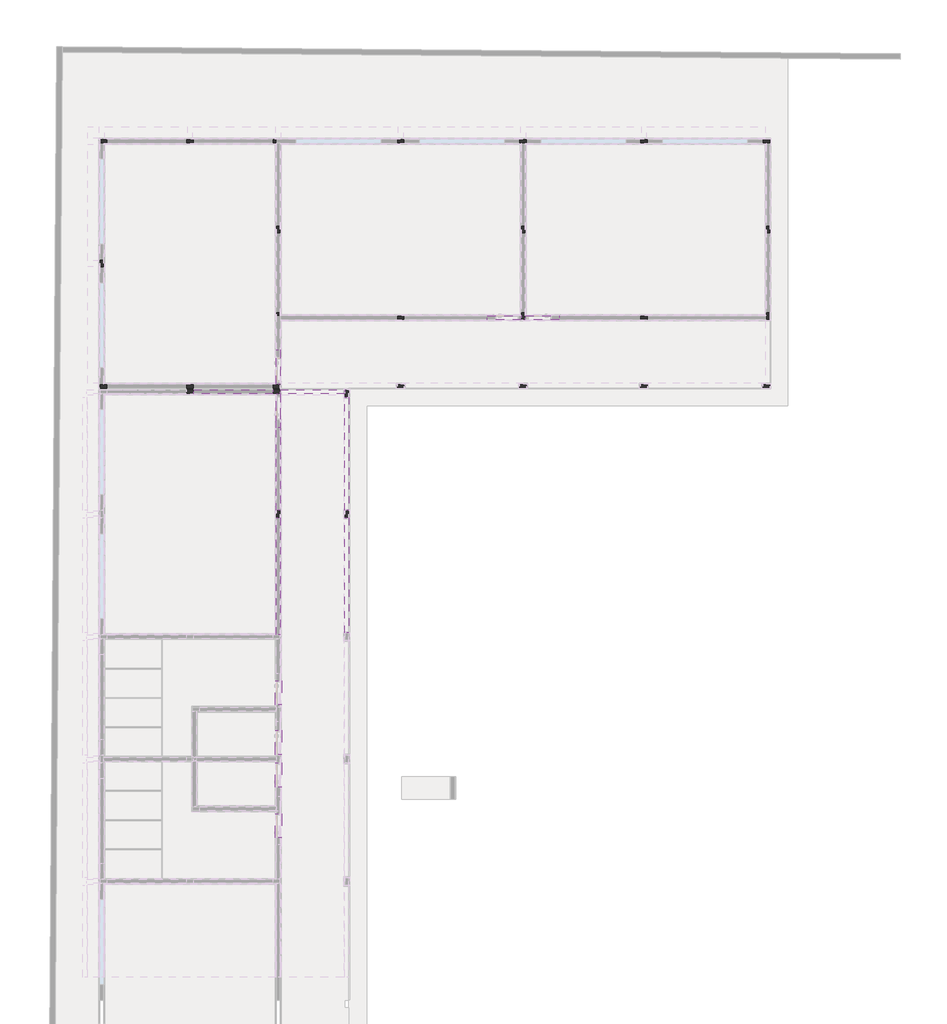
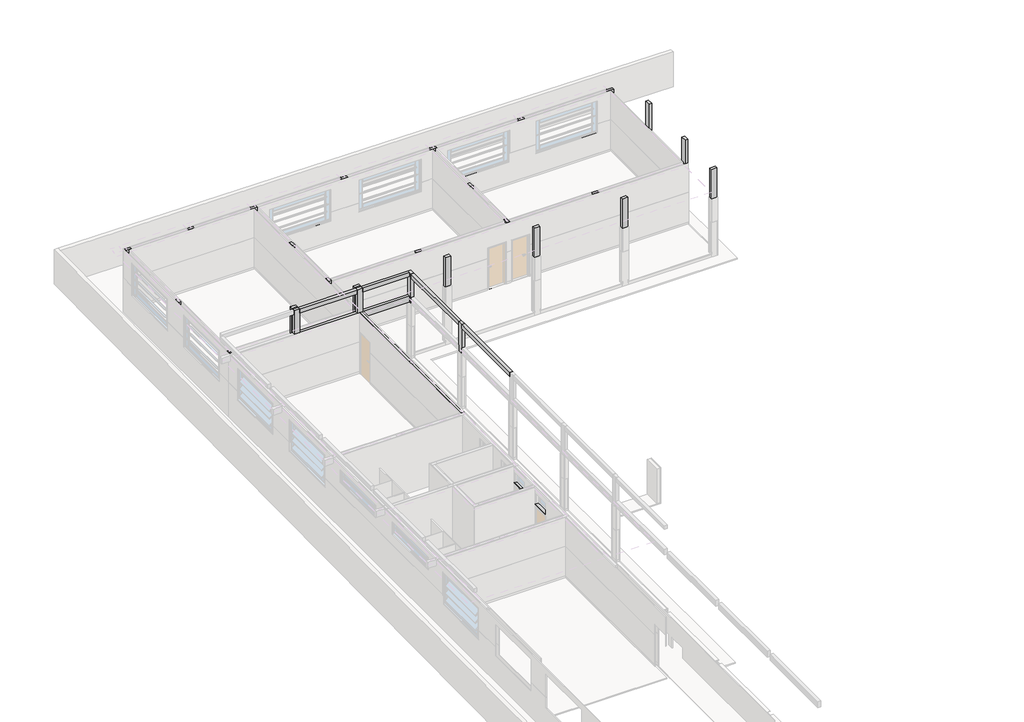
# One storey, part 10 of 11: 50 beams, 28 columns, 4 furniture elements.
"""IFC4 building model written with IfcOpenShell, lengths in millimetres."""

from ifc_helpers import new_model, si_unit, frame, origin, place, context, project, spatial, polyline, outline, extrude, faceted_brep, transform, mapped, element, save
from components import beam_10x14x120_9fcbaa63, pedra_peitoril_tipo_1_7c079c32

model = new_model("IFC4")

# Units and contexts
model_context = context("Model", 3, world=origin())
ifc_project = project(units=[si_unit("LENGTHUNIT", "METRE", prefix="MILLI")], contexts=[model_context])

# Site, building, storey
site = spatial("IfcSite", under=ifc_project)
building = spatial("IfcBuilding", under=site)
storey = spatial("IfcBuildingStorey", under=building, Name="NÍVEL 1", Elevation=43.4413576)

# Beams
placement = place(None, origin())
beam_10x14x120_shape = beam_10x14x120_9fcbaa63(model_context)
element("IfcBeam", 1, ObjectType="Verga-vedacao : 10x14x120", at=placement, inside=storey, context=model_context, shape_type="MappedRepresentation", body=[
    mapped(beam_10x14x120_shape, transform((9272.3574069, 7202.0719642, 2208.4413576), x_axis=(0.0, 1.0, 0.0), y_axis=(0.0, 0.0, 1.0), z_axis=(1.0, 0.0, 0.0))),
])
element("IfcBeam", 2, ObjectType="Verga-vedacao : 10x14x120", at=placement, inside=storey, context=model_context, shape_type="MappedRepresentation", body=[
    mapped(beam_10x14x120_shape, transform((9272.3574069, 8742.0719642, 2208.4413576), x_axis=(0.0, 1.0, 0.0), y_axis=(0.0, 0.0, 1.0), z_axis=(1.0, 0.0, 0.0))),
])
element("IfcBeam", 3, ObjectType="Verga-vedacao : 10x14x120", at=placement, inside=storey, context=model_context, shape_type="MappedRepresentation", body=[
    mapped(beam_10x14x120_shape, transform((17132.3574069, 10402.0719642, 2208.4413576), x_axis=(1.0, 0.0, 0.0), y_axis=(0.0, 0.0, 1.0), z_axis=(0.0, -1.0, 0.0))),
])
element("IfcBeam", 4, ObjectType="Verga-vedacao : 10x14x120", at=placement, inside=storey, context=model_context, shape_type="MappedRepresentation", body=[
    mapped(beam_10x14x120_shape, transform((18472.3574069, 10402.0719642, 2208.4413576), x_axis=(1.0, 0.0, 0.0), y_axis=(0.0, 0.0, 1.0), z_axis=(0.0, -1.0, 0.0))),
])
element("IfcBeam", 5, ObjectType="Viga Retangular de Concreto : VIGA BALDRAME 14X30-25MPA-CA50", at=placement, inside=storey, context=model_context, shape_type="SweptSolid", body=[
    extrude(outline(polyline([(13372.3574069, 16742.0719642), (13372.3574069, 16602.0719642), (9272.3574069, 16602.0719642), (9272.3574069, 16742.0719642), (13372.3574069, 16742.0719642)])), frame((0.0, 0.0, -256.5586424), z_axis=(0.0, 0.0, 1.0), x_axis=(1.0, 0.0, 0.0)), (0.0, 0.0, 1.0), 300.0),
])
element("IfcBeam", 6, ObjectType="Viga Retangular de Concreto : VIGA BALDRAME 14X30-25MPA-CA50", at=placement, inside=storey, context=model_context, shape_type="SweptSolid", body=[
    extrude(outline(polyline([(17672.3574069, 16742.0719642), (17672.3574069, 16602.0719642), (13632.3574069, 16602.0719642), (13632.3574069, 16742.0719642), (17672.3574069, 16742.0719642)])), frame((0.0, 0.0, -256.5586424), z_axis=(0.0, 0.0, 1.0), x_axis=(1.0, 0.0, 0.0)), (0.0, 0.0, 1.0), 300.0),
])
element("IfcBeam", 7, ObjectType="Viga Retangular de Concreto : VIGA BALDRAME 14X30-25MPA-CA50", at=placement, inside=storey, context=model_context, shape_type="SweptSolid", body=[
    extrude(outline(polyline([(9272.3574069, 10402.0719642), (9272.3574069, 10542.0719642), (13372.3574069, 10542.0719642), (13372.3574069, 10402.0719642), (9272.3574069, 10402.0719642)])), frame((0.0, 0.0, -256.5586424), z_axis=(0.0, 0.0, 1.0), x_axis=(1.0, 0.0, 0.0)), (0.0, 0.0, 1.0), 300.0),
])
element("IfcBeam", 8, ObjectType="Viga Retangular de Concreto : VIGA BALDRAME 14X30-25MPA-CA50", at=placement, inside=storey, context=model_context, shape_type="SweptSolid", body=[
    extrude(outline(polyline([(17732.3574069, 10542.0719642), (17732.3574069, 10402.0719642), (13632.3574069, 10402.0719642), (13632.3574069, 10542.0719642), (17732.3574069, 10542.0719642)])), frame((0.0, 0.0, -256.5586424), z_axis=(0.0, 0.0, 1.0), x_axis=(1.0, 0.0, 0.0)), (0.0, 0.0, 1.0), 300.0),
])
element("IfcBeam", 9, ObjectType="Viga Retangular de Concreto : VIGA BALDRAME 14X30-25MPA-CA50", at=placement, inside=storey, context=model_context, shape_type="SweptSolid", body=[
    extrude(outline(polyline([(17732.3574069, 13442.0719642), (17872.3574069, 13442.0719642), (17872.3574069, 10662.0719642), (17732.3574069, 10662.0719642), (17732.3574069, 13442.0719642)])), frame((0.0, 0.0, -256.5586424), z_axis=(0.0, 0.0, 1.0), x_axis=(1.0, 0.0, 0.0)), (0.0, 0.0, 1.0), 300.0),
])
element("IfcBeam", 10, ObjectType="Viga Retangular de Concreto : VIGA BALDRAME 14X30-25MPA-CA50", at=placement, inside=storey, context=model_context, shape_type="SweptSolid", body=[
    extrude(outline(polyline([(17732.3574069, 16602.0719642), (17872.3574069, 16602.0719642), (17872.3574069, 13702.0719642), (17732.3574069, 13702.0719642), (17732.3574069, 16602.0719642)])), frame((0.0, 0.0, -256.5586424), z_axis=(0.0, 0.0, 1.0), x_axis=(1.0, 0.0, 0.0)), (0.0, 0.0, 1.0), 300.0),
])
element("IfcBeam", 11, ObjectType="Viga Retangular de Concreto : VIGA BALDRAME 14X30-25MPA-CA50", at=placement, inside=storey, context=model_context, shape_type="SweptSolid", body=[
    extrude(outline(polyline([(17872.3574069, 10402.0719642), (17872.3574069, 10542.0719642), (21912.3574069, 10542.0719642), (21912.3574069, 10402.0719642), (17872.3574069, 10402.0719642)])), frame((0.0, 0.0, -256.5586424), z_axis=(0.0, 0.0, 1.0), x_axis=(1.0, 0.0, 0.0)), (0.0, 0.0, 1.0), 300.0),
])
element("IfcBeam", 12, ObjectType="Viga Retangular de Concreto : VIGA BALDRAME 14X30-25MPA-CA50", at=placement, inside=storey, context=model_context, shape_type="SweptSolid", body=[
    extrude(outline(polyline([(26332.3574069, 10542.0719642), (26332.3574069, 10402.0719642), (22172.3574069, 10402.0719642), (22172.3574069, 10542.0719642), (26332.3574069, 10542.0719642)])), frame((0.0, 0.0, -256.5586424), z_axis=(0.0, 0.0, 1.0), x_axis=(1.0, 0.0, 0.0)), (0.0, 0.0, 1.0), 300.0),
])
element("IfcBeam", 13, ObjectType="Viga Retangular de Concreto : VIGA BALDRAME 14X30-25MPA-CA50", at=placement, inside=storey, context=model_context, shape_type="SweptSolid", body=[
    extrude(outline(polyline([(26332.3574069, 13442.0719642), (26472.3574069, 13442.0719642), (26472.3574069, 10662.0719642), (26332.3574069, 10662.0719642), (26332.3574069, 13442.0719642)])), frame((0.0, 0.0, -256.5586424), z_axis=(0.0, 0.0, 1.0), x_axis=(1.0, 0.0, 0.0)), (0.0, 0.0, 1.0), 300.0),
])
element("IfcBeam", 14, ObjectType="Viga Retangular de Concreto : VIGA BALDRAME 14X30-25MPA-CA50", at=placement, inside=storey, context=model_context, shape_type="SweptSolid", body=[
    extrude(outline(polyline([(26332.3574069, 16602.0719642), (26472.3574069, 16602.0719642), (26472.3574069, 13702.0719642), (26332.3574069, 13702.0719642), (26332.3574069, 16602.0719642)])), frame((0.0, 0.0, -256.5586424), z_axis=(0.0, 0.0, 1.0), x_axis=(1.0, 0.0, 0.0)), (0.0, 0.0, 1.0), 300.0),
])
element("IfcBeam", 15, ObjectType="Viga Retangular de Concreto : VIGA BALDRAME 14X30-25MPA-CA50", at=placement, inside=storey, context=model_context, shape_type="SweptSolid", body=[
    extrude(outline(polyline([(21912.3574069, 16742.0719642), (21912.3574069, 16602.0719642), (17932.3574069, 16602.0719642), (17932.3574069, 16742.0719642), (21912.3574069, 16742.0719642)])), frame((0.0, 0.0, -256.5586424), z_axis=(0.0, 0.0, 1.0), x_axis=(1.0, 0.0, 0.0)), (0.0, 0.0, 1.0), 300.0),
])
element("IfcBeam", 16, ObjectType="Viga Retangular de Concreto : VIGA BALDRAME 14X30-25MPA-CA50", at=placement, inside=storey, context=model_context, shape_type="SweptSolid", body=[
    extrude(outline(polyline([(26212.3574069, 16742.0719642), (26212.3574069, 16602.0719642), (22172.3574069, 16602.0719642), (22172.3574069, 16742.0719642), (26212.3574069, 16742.0719642)])), frame((0.0, 0.0, -256.5586424), z_axis=(0.0, 0.0, 1.0), x_axis=(1.0, 0.0, 0.0)), (0.0, 0.0, 1.0), 300.0),
])
element("IfcBeam", 17, ObjectType="Viga Retangular de Concreto : VIGA BALDRAME 14X30-25MPA-CA50", at=placement, inside=storey, context=model_context, shape_type="SweptSolid", body=[
    extrude(outline(polyline([(9272.3574069, 8142.0719642), (9132.3574069, 8142.0719642), (9132.3574069, 10402.0719642), (9272.3574069, 10402.0719642), (9272.3574069, 8142.0719642)])), frame((0.0, 0.0, -256.5586424), z_axis=(0.0, 0.0, 1.0), x_axis=(1.0, 0.0, 0.0)), (0.0, 0.0, 1.0), 300.0),
])
element("IfcBeam", 18, ObjectType="Viga Retangular de Concreto : VIGA BALDRAME 14X30-25MPA-CA50", at=placement, inside=storey, context=model_context, shape_type="SweptSolid", body=[
    extrude(outline(polyline([(13372.3574069, 8142.0719642), (13372.3574069, 8002.0719642), (9272.3574069, 8002.0719642), (9272.3574069, 8142.0719642), (13372.3574069, 8142.0719642)])), frame((0.0, 0.0, -276.5586424), z_axis=(0.0, 0.0, 1.0), x_axis=(1.0, 0.0, 0.0)), (0.0, 0.0, 1.0), 300.0),
])
element("IfcBeam", 19, ObjectType="Viga Retangular de Concreto : VIGA BALDRAME 14X30-25MPA-CA50", at=placement, inside=storey, context=model_context, shape_type="SweptSolid", body=[
    extrude(outline(polyline([(17672.3574069, 8142.0719642), (17672.3574069, 8002.0719642), (13632.3574069, 8002.0719642), (13632.3574069, 8142.0719642), (17672.3574069, 8142.0719642)])), frame((0.0, 0.0, -276.5586424), z_axis=(0.0, 0.0, 1.0), x_axis=(1.0, 0.0, 0.0)), (0.0, 0.0, 1.0), 300.0),
])
element("IfcBeam", 20, ObjectType="Viga Retangular de Concreto : VIGA BALDRAME 14X30-25MPA-CA50", at=placement, inside=storey, context=model_context, shape_type="SweptSolid", body=[
    extrude(outline(polyline([(21912.3574069, 8142.0719642), (21912.3574069, 8002.0719642), (17932.3574069, 8002.0719642), (17932.3574069, 8142.0719642), (21912.3574069, 8142.0719642)])), frame((0.0, 0.0, -276.5586424), z_axis=(0.0, 0.0, 1.0), x_axis=(1.0, 0.0, 0.0)), (0.0, 0.0, 1.0), 300.0),
])
element("IfcBeam", 21, ObjectType="Viga Retangular de Concreto : VIGA BALDRAME 14X30-25MPA-CA50", at=placement, inside=storey, context=model_context, shape_type="SweptSolid", body=[
    extrude(outline(polyline([(26212.3574069, 8142.0719642), (26212.3574069, 8002.0719642), (22172.3574069, 8002.0719642), (22172.3574069, 8142.0719642), (26212.3574069, 8142.0719642)])), frame((0.0, 0.0, -276.5586424), z_axis=(0.0, 0.0, 1.0), x_axis=(1.0, 0.0, 0.0)), (0.0, 0.0, 1.0), 300.0),
])
element("IfcBeam", 22, ObjectType="Viga Retangular de Concreto : VIGA BALDRAME 14X30-25MPA-CA50", at=placement, inside=storey, context=model_context, shape_type="SweptSolid", body=[
    extrude(outline(polyline([(26472.3574069, 8142.0719642), (26332.3574069, 8142.0719642), (26332.3574069, 10402.0719642), (26472.3574069, 10402.0719642), (26472.3574069, 8142.0719642)])), frame((0.0, 0.0, -276.5586424), z_axis=(0.0, 0.0, 1.0), x_axis=(1.0, 0.0, 0.0)), (0.0, 0.0, 1.0), 300.0),
])
element("IfcBeam", 23, ObjectType="Viga Retangular de Concreto : VIGA BALDRAME 14X30-25MPA-CA50", at=placement, inside=storey, context=model_context, shape_type="SweptSolid", body=[
    extrude(outline(polyline([(6232.3574069, 8002.0719642), (6232.3574069, 8142.0719642), (9012.3574069, 8142.0719642), (9012.3574069, 8002.0719642), (6232.3574069, 8002.0719642)])), frame((0.0, 0.0, -256.5586424), z_axis=(0.0, 0.0, 1.0), x_axis=(1.0, 0.0, 0.0)), (0.0, 0.0, 1.0), 300.0),
])
element("IfcBeam", 24, ObjectType="Viga Retangular de Concreto : VIGA BALDRAME 14X30-25MPA-CA50", at=placement, inside=storey, context=model_context, shape_type="SweptSolid", body=[
    extrude(outline(polyline([(5972.3574069, 8142.0719642), (5972.3574069, 8002.0719642), (3192.3574069, 8002.0719642), (3192.3574069, 8142.0719642), (5972.3574069, 8142.0719642)])), frame((0.0, 0.0, -256.5586424), z_axis=(0.0, 0.0, 1.0), x_axis=(1.0, 0.0, 0.0)), (0.0, 0.0, 1.0), 300.0),
])
element("IfcBeam", 25, ObjectType="Viga Retangular de Concreto : VIGA BALDRAME 14X30-25MPA-CA50", at=placement, inside=storey, context=model_context, shape_type="SweptSolid", body=[
    extrude(outline(polyline([(2932.3574069, 12242.0719642), (3072.3574069, 12242.0719642), (3072.3574069, 8142.0719642), (2932.3574069, 8142.0719642), (2932.3574069, 12242.0719642)])), frame((0.0, 0.0, -256.5586424), z_axis=(0.0, 0.0, 1.0), x_axis=(1.0, 0.0, 0.0)), (0.0, 0.0, 1.0), 300.0),
])
element("IfcBeam", 26, ObjectType="Viga Retangular de Concreto : VIGA BALDRAME 14X30-25MPA-CA50", at=placement, inside=storey, context=model_context, shape_type="SweptSolid", body=[
    extrude(outline(polyline([(3072.3574069, 12502.0719642), (2932.3574069, 12502.0719642), (2932.3574069, 16602.0719642), (3072.3574069, 16602.0719642), (3072.3574069, 12502.0719642)])), frame((0.0, 0.0, -256.5586424), z_axis=(0.0, 0.0, 1.0), x_axis=(1.0, 0.0, 0.0)), (0.0, 0.0, 1.0), 300.0),
])
element("IfcBeam", 27, ObjectType="Viga Retangular de Concreto : VIGA BALDRAME 14X30-25MPA-CA50", at=placement, inside=storey, context=model_context, shape_type="SweptSolid", body=[
    extrude(outline(polyline([(5972.3574069, 16742.0719642), (5972.3574069, 16602.0719642), (3192.3574069, 16602.0719642), (3192.3574069, 16742.0719642), (5972.3574069, 16742.0719642)])), frame((0.0, 0.0, -256.5586424), z_axis=(0.0, 0.0, 1.0), x_axis=(1.0, 0.0, 0.0)), (0.0, 0.0, 1.0), 300.0),
])
element("IfcBeam", 28, ObjectType="Viga Retangular de Concreto : VIGA BALDRAME 14X30-25MPA-CA50", at=placement, inside=storey, context=model_context, shape_type="SweptSolid", body=[
    extrude(outline(polyline([(9012.3574069, 16742.0719642), (9012.3574069, 16602.0719642), (6232.3574069, 16602.0719642), (6232.3574069, 16742.0719642), (9012.3574069, 16742.0719642)])), frame((0.0, 0.0, -256.5586424), z_axis=(0.0, 0.0, 1.0), x_axis=(1.0, 0.0, 0.0)), (0.0, 0.0, 1.0), 300.0),
])
element("IfcBeam", 29, ObjectType="Viga Retangular de Concreto : VIGA BALDRAME 14X30-25MPA-CA50", at=placement, inside=storey, context=model_context, shape_type="SweptSolid", body=[
    extrude(outline(polyline([(9132.3574069, 13442.0719642), (9272.3574069, 13442.0719642), (9272.3574069, 10662.0719642), (9132.3574069, 10662.0719642), (9132.3574069, 13442.0719642)])), frame((0.0, 0.0, -256.5586424), z_axis=(0.0, 0.0, 1.0), x_axis=(1.0, 0.0, 0.0)), (0.0, 0.0, 1.0), 300.0),
])
element("IfcBeam", 30, ObjectType="Viga Retangular de Concreto : VIGA BALDRAME 14X30-25MPA-CA50", at=placement, inside=storey, context=model_context, shape_type="SweptSolid", body=[
    extrude(outline(polyline([(9132.3574069, 16602.0719642), (9272.3574069, 16602.0719642), (9272.3574069, 13702.0719642), (9132.3574069, 13702.0719642), (9132.3574069, 16602.0719642)])), frame((0.0, 0.0, -256.5586424), z_axis=(0.0, 0.0, 1.0), x_axis=(1.0, 0.0, 0.0)), (0.0, 0.0, 1.0), 300.0),
])
element("IfcBeam", 31, ObjectType="Viga Retangular de Concreto : VIGA BALDRAME 14X30-25MPA-CA50", at=placement, inside=storey, context=model_context, shape_type="SweptSolid", body=[
    extrude(outline(polyline([(9012.3574069, 7942.0719642), (9012.3574069, 7802.0719642), (6232.3574069, 7802.0719642), (6232.3574069, 7942.0719642), (9012.3574069, 7942.0719642)])), frame((0.0, 0.0, -256.5586424), z_axis=(0.0, 0.0, 1.0), x_axis=(1.0, 0.0, 0.0)), (0.0, 0.0, 1.0), 300.0),
])
element("IfcBeam", 32, ObjectType="Viga Retangular de Concreto : VIGA BALDRAME 14X30-25MPA-CA50", at=placement, inside=storey, context=model_context, shape_type="SweptSolid", body=[
    extrude(outline(polyline([(11532.3574069, 7942.0719642), (11532.3574069, 7802.0719642), (9272.3574069, 7802.0719642), (9272.3574069, 7942.0719642), (11532.3574069, 7942.0719642)])), frame((0.0, 0.0, -276.5586424), z_axis=(0.0, 0.0, 1.0), x_axis=(1.0, 0.0, 0.0)), (0.0, 0.0, 1.0), 300.0),
])
element("IfcBeam", 33, ObjectType="Viga Retangular de Concreto : VIGA BALDRAME 14X30-25MPA-CA50", at=placement, inside=storey, context=model_context, shape_type="SweptSolid", body=[
    extrude(outline(polyline([(11672.3574069, 3702.0719642), (11532.3574069, 3702.0719642), (11532.3574069, 7682.0719642), (11672.3574069, 7682.0719642), (11672.3574069, 3702.0719642)])), frame((0.0, 0.0, -276.5586424), z_axis=(0.0, 0.0, 1.0), x_axis=(1.0, 0.0, 0.0)), (0.0, 0.0, 1.0), 300.0),
])
element("IfcBeam", 34, ObjectType="Viga Retangular de Concreto : VIGA BALDRAME 14X30-25MPA-CA50", at=placement, inside=storey, context=model_context, shape_type="SweptSolid", body=[
    extrude(outline(polyline([(11532.3574069, 3442.0719642), (11672.3574069, 3442.0719642), (11672.3574069, -597.9280358), (11532.3574069, -597.9280358), (11532.3574069, 3442.0719642)])), frame((0.0, 0.0, -276.5586424), z_axis=(0.0, 0.0, 1.0), x_axis=(1.0, 0.0, 0.0)), (0.0, 0.0, 1.0), 300.0),
])
element("IfcBeam", 35, ObjectType="Viga Retangular de Concreto : VIGA BALDRAME 14X30-25MPA-CA50", at=placement, inside=storey, context=model_context, shape_type="SweptSolid", body=[
    extrude(outline(polyline([(9132.3574069, 3442.0719642), (9272.3574069, 3442.0719642), (9272.3574069, -657.9280358), (9132.3574069, -657.9280358), (9132.3574069, 3442.0719642)])), frame((0.0, 0.0, -256.5586424), z_axis=(0.0, 0.0, 1.0), x_axis=(1.0, 0.0, 0.0)), (0.0, 0.0, 1.0), 300.0),
])
element("IfcBeam", 36, ObjectType="Viga Retangular de Concreto : VIGA BALDRAME 14X30-25MPA-CA50", at=placement, inside=storey, context=model_context, shape_type="SweptSolid", body=[
    extrude(outline(polyline([(9132.3574069, 7802.0719642), (9272.3574069, 7802.0719642), (9272.3574069, 3702.0719642), (9132.3574069, 3702.0719642), (9132.3574069, 7802.0719642)])), frame((0.0, 0.0, -256.5586424), z_axis=(0.0, 0.0, 1.0), x_axis=(1.0, 0.0, 0.0)), (0.0, 0.0, 1.0), 300.0),
])
element("IfcBeam", 37, ObjectType="Viga Retangular de Concreto : VIGA ESTRUTURAL 14X20-25MPA-CA50", at=placement, inside=storey, context=model_context, shape_type="SweptSolid", body=[
    extrude(outline(polyline([(11532.3574069, 3442.0719642), (11672.3574069, 3442.0719642), (11672.3574069, -597.9280358), (11532.3574069, -597.9280358), (11532.3574069, 3442.0719642)])), frame((0.0, 0.0, 4143.4413576), z_axis=(0.0, 0.0, 1.0), x_axis=(1.0, 0.0, 0.0)), (0.0, 0.0, 1.0), 200.0),
])
element("IfcBeam", 38, ObjectType="Viga Retangular de Concreto : VIGA ESTRUTURAL 14X20-25MPA-CA50", at=placement, inside=storey, context=model_context, shape_type="SweptSolid", body=[
    extrude(outline(polyline([(11672.3574069, 3702.0719642), (11532.3574069, 3702.0719642), (11532.3574069, 7682.0719642), (11672.3574069, 7682.0719642), (11672.3574069, 3702.0719642)])), frame((0.0, 0.0, 4143.4413576), z_axis=(0.0, 0.0, 1.0), x_axis=(1.0, 0.0, 0.0)), (0.0, 0.0, 1.0), 200.0),
])
element("IfcBeam", 39, ObjectType="Viga Retangular de Concreto : VIGA ESTRUTURAL 14X20-25MPA-CA50", at=placement, inside=storey, context=model_context, shape_type="SweptSolid", body=[
    extrude(outline(polyline([(9272.3574069, 7802.0719642), (9272.3574069, 7942.0719642), (11532.3574069, 7942.0719642), (11532.3574069, 7802.0719642), (9272.3574069, 7802.0719642)])), frame((0.0, 0.0, 4143.4413576), z_axis=(0.0, 0.0, 1.0), x_axis=(1.0, 0.0, 0.0)), (0.0, 0.0, 1.0), 200.0),
])
element("IfcBeam", 40, ObjectType="Viga Retangular de Concreto : VIGA ESTRUTURAL 14X20-25MPA-CA50", at=placement, inside=storey, context=model_context, shape_type="SweptSolid", body=[
    extrude(outline(polyline([(6232.3574069, 7802.0719642), (6232.3574069, 7942.0719642), (9012.3574069, 7942.0719642), (9012.3574069, 7802.0719642), (6232.3574069, 7802.0719642)])), frame((0.0, 0.0, 4143.4413576), z_axis=(0.0, 0.0, 1.0), x_axis=(1.0, 0.0, 0.0)), (0.0, 0.0, 1.0), 200.0),
])
element("IfcBeam", 41, ObjectType="Viga Retangular de Concreto : VIGA ESTRUTURAL 14X20-25MPA-CA50", at=placement, inside=storey, context=model_context, shape_type="SweptSolid", body=[
    extrude(outline(polyline([(2932.3574069, 12242.0719642), (3072.3574069, 12242.0719642), (3072.3574069, 8142.0719642), (2932.3574069, 8142.0719642), (2932.3574069, 12242.0719642)])), frame((0.0, 0.0, 1003.4413576), z_axis=(0.0, 0.0, 1.0), x_axis=(1.0, 0.0, 0.0)), (0.0, 0.0, 1.0), 200.0),
])
element("IfcBeam", 42, ObjectType="Viga Retangular de Concreto : VIGA ESTRUTURAL 14X20-25MPA-CA50", at=placement, inside=storey, context=model_context, shape_type="SweptSolid", body=[
    extrude(outline(polyline([(2932.3574069, 16602.0719642), (3072.3574069, 16602.0719642), (3072.3574069, 12502.0719642), (2932.3574069, 12502.0719642), (2932.3574069, 16602.0719642)])), frame((0.0, 0.0, 1003.4413576), z_axis=(0.0, 0.0, 1.0), x_axis=(1.0, 0.0, 0.0)), (0.0, 0.0, 1.0), 200.0),
])
element("IfcBeam", 43, ObjectType="Viga Retangular de Concreto : VIGA ESTRUTURAL 14X20-25MPA-CA50", at=placement, inside=storey, context=model_context, shape_type="SweptSolid", body=[
    extrude(outline(polyline([(13372.3574069, 16742.0719642), (13372.3574069, 16602.0719642), (9272.3574069, 16602.0719642), (9272.3574069, 16742.0719642), (13372.3574069, 16742.0719642)])), frame((0.0, 0.0, 1003.4413576), z_axis=(0.0, 0.0, 1.0), x_axis=(1.0, 0.0, 0.0)), (0.0, 0.0, 1.0), 200.0),
])
element("IfcBeam", 44, ObjectType="Viga Retangular de Concreto : VIGA ESTRUTURAL 14X20-25MPA-CA50", at=placement, inside=storey, context=model_context, shape_type="SweptSolid", body=[
    extrude(outline(polyline([(17672.3574069, 16742.0719642), (17672.3574069, 16602.0719642), (13632.3574069, 16602.0719642), (13632.3574069, 16742.0719642), (17672.3574069, 16742.0719642)])), frame((0.0, 0.0, 1003.4413576), z_axis=(0.0, 0.0, 1.0), x_axis=(1.0, 0.0, 0.0)), (0.0, 0.0, 1.0), 200.0),
])
element("IfcBeam", 45, ObjectType="Viga Retangular de Concreto : VIGA ESTRUTURAL 14X20-25MPA-CA50", at=placement, inside=storey, context=model_context, shape_type="SweptSolid", body=[
    extrude(outline(polyline([(21912.3574069, 16742.0719642), (21912.3574069, 16602.0719642), (17932.3574069, 16602.0719642), (17932.3574069, 16742.0719642), (21912.3574069, 16742.0719642)])), frame((0.0, 0.0, 1003.4413576), z_axis=(0.0, 0.0, 1.0), x_axis=(1.0, 0.0, 0.0)), (0.0, 0.0, 1.0), 200.0),
])
element("IfcBeam", 46, ObjectType="Viga Retangular de Concreto : VIGA ESTRUTURAL 14X20-25MPA-CA50", at=placement, inside=storey, context=model_context, shape_type="SweptSolid", body=[
    extrude(outline(polyline([(26212.3574069, 16742.0719642), (26212.3574069, 16602.0719642), (22172.3574069, 16602.0719642), (22172.3574069, 16742.0719642), (26212.3574069, 16742.0719642)])), frame((0.0, 0.0, 1003.4413576), z_axis=(0.0, 0.0, 1.0), x_axis=(1.0, 0.0, 0.0)), (0.0, 0.0, 1.0), 200.0),
])
element("IfcBeam", 47, ObjectType="Viga Retangular de Concreto : VIGA ESTRUTURAL 14X30-25MPA-CA50", at=placement, inside=storey, context=model_context, shape_type="SweptSolid", body=[
    extrude(outline(polyline([(9012.3574069, 7942.0719642), (9012.3574069, 7802.0719642), (6232.3574069, 7802.0719642), (6232.3574069, 7942.0719642), (9012.3574069, 7942.0719642)])), frame((0.0, 0.0, 2843.4413576), z_axis=(0.0, 0.0, 1.0), x_axis=(1.0, 0.0, 0.0)), (0.0, 0.0, 1.0), 300.0),
])
element("IfcBeam", 48, ObjectType="Viga Retangular de Concreto : VIGA ESTRUTURAL 14X30-25MPA-CA50", at=placement, inside=storey, context=model_context, shape_type="SweptSolid", body=[
    extrude(outline(polyline([(11532.3574069, 7942.0719642), (11532.3574069, 7802.0719642), (9272.3574069, 7802.0719642), (9272.3574069, 7942.0719642), (11532.3574069, 7942.0719642)])), frame((0.0, 0.0, 2843.4413576), z_axis=(0.0, 0.0, 1.0), x_axis=(1.0, 0.0, 0.0)), (0.0, 0.0, 1.0), 300.0),
])
element("IfcBeam", 49, ObjectType="Viga Retangular de Concreto : VIGA ESTRUTURAL 14X30-25MPA-CA50", at=placement, inside=storey, context=model_context, shape_type="SweptSolid", body=[
    extrude(outline(polyline([(9132.3574069, 3442.0719642), (9272.3574069, 3442.0719642), (9272.3574069, -657.9280358), (9132.3574069, -657.9280358), (9132.3574069, 3442.0719642)])), frame((0.0, 0.0, 2843.4413576), z_axis=(0.0, 0.0, 1.0), x_axis=(1.0, 0.0, 0.0)), (0.0, 0.0, 1.0), 300.0),
])
element("IfcBeam", 50, ObjectType="Viga Retangular de Concreto : VIGA ESTRUTURAL 14X30-25MPA-CA50", at=placement, inside=storey, context=model_context, shape_type="SweptSolid", body=[
    extrude(outline(polyline([(9132.3574069, 7802.0719642), (9272.3574069, 7802.0719642), (9272.3574069, 3702.0719642), (9132.3574069, 3702.0719642), (9132.3574069, 7802.0719642)])), frame((0.0, 0.0, 2843.4413576), z_axis=(0.0, 0.0, 1.0), x_axis=(1.0, 0.0, 0.0)), (0.0, 0.0, 1.0), 300.0),
])

# Columns
element("IfcColumn", 51, ObjectType="Pilar Retangular de Concreto : PILAR ESTRUTURAL 14X26-25MPA-CA50", at=placement, inside=storey, context=model_context, shape_type="SweptSolid", body=[
    extrude(outline(polyline([(3192.3574069, 16742.0719642), (3192.3574069, 16602.0719642), (2932.3574069, 16602.0719642), (2932.3574069, 16742.0719642), (3192.3574069, 16742.0719642)])), frame((0.0, 0.0, -356.5586424), z_axis=(0.0, 0.0, 1.0), x_axis=(1.0, 0.0, 0.0)), (0.0, 0.0, 1.0), 3500.0),
])
element("IfcColumn", 52, ObjectType="Pilar Retangular de Concreto : PILAR ESTRUTURAL 14X26-25MPA-CA50", at=placement, inside=storey, context=model_context, shape_type="SweptSolid", body=[
    extrude(outline(polyline([(9272.3574069, 16742.0719642), (9272.3574069, 16602.0719642), (9012.3574069, 16602.0719642), (9012.3574069, 16742.0719642), (9272.3574069, 16742.0719642)])), frame((0.0, 0.0, -356.5586424), z_axis=(0.0, 0.0, 1.0), x_axis=(1.0, 0.0, 0.0)), (0.0, 0.0, 1.0), 3500.0),
])
element("IfcColumn", 53, ObjectType="Pilar Retangular de Concreto : PILAR ESTRUTURAL 14X26-25MPA-CA50", at=placement, inside=storey, context=model_context, shape_type="SweptSolid", body=[
    extrude(outline(polyline([(17932.3574069, 16742.0719642), (17932.3574069, 16602.0719642), (17672.3574069, 16602.0719642), (17672.3574069, 16742.0719642), (17932.3574069, 16742.0719642)])), frame((0.0, 0.0, -356.5586424), z_axis=(0.0, 0.0, 1.0), x_axis=(1.0, 0.0, 0.0)), (0.0, 0.0, 1.0), 3500.0),
])
element("IfcColumn", 54, ObjectType="Pilar Retangular de Concreto : PILAR ESTRUTURAL 14X26-25MPA-CA50", at=placement, inside=storey, context=model_context, shape_type="SweptSolid", body=[
    extrude(outline(polyline([(26472.3574069, 16742.0719642), (26472.3574069, 16602.0719642), (26212.3574069, 16602.0719642), (26212.3574069, 16742.0719642), (26472.3574069, 16742.0719642)])), frame((0.0, 0.0, -356.5586424), z_axis=(0.0, 0.0, 1.0), x_axis=(1.0, 0.0, 0.0)), (0.0, 0.0, 1.0), 3500.0),
])
element("IfcColumn", 55, ObjectType="Pilar Retangular de Concreto : PILAR ESTRUTURAL 14X26-25MPA-CA50", at=placement, inside=storey, context=model_context, shape_type="SweptSolid", body=[
    extrude(outline(polyline([(3192.3574069, 8142.0719642), (3192.3574069, 8002.0719642), (2932.3574069, 8002.0719642), (2932.3574069, 8142.0719642), (3192.3574069, 8142.0719642)])), frame((0.0, 0.0, -356.5586424), z_axis=(0.0, 0.0, 1.0), x_axis=(1.0, 0.0, 0.0)), (0.0, 0.0, 1.0), 3500.0),
])
element("IfcColumn", 56, ObjectType="Pilar Retangular de Concreto : PILAR ESTRUTURAL 14X26-25MPA-CA50", at=placement, inside=storey, context=model_context, shape_type="Brep", body=[
    faceted_brep([(9272.3574069, 8142.0719642, -356.5586424), (9272.3574069, 8002.0719642, -356.5586424), (9012.3574069, 8002.0719642, -356.5586424), (9012.3574069, 8142.0719642, -356.5586424), (9272.3574069, 8142.0719642, 4343.4413576), (9272.3574069, 8002.0719642, 4343.4413576), (9272.3574069, 8002.0719642, 4143.4413576), (9272.3574069, 8142.0719642, 4143.4413576), (9012.3574069, 8002.0719642, 4343.4413576), (9012.3574069, 8142.0719642, 4343.4413576)], [[[0, 1, 2, 3]], [[4, 5, 6, 1, 0, 7]], [[5, 8, 2, 1, 6]], [[8, 9, 3, 2]], [[9, 4, 7, 0, 3]], [[4, 9, 8, 5]]]),
])
element("IfcColumn", 57, ObjectType="Pilar Retangular de Concreto : PILAR ESTRUTURAL 14X26-25MPA-CA50", at=placement, inside=storey, context=model_context, shape_type="Brep", body=[
    faceted_brep([(17932.3574069, 8142.0719642, -356.5586424), (17932.3574069, 8002.0719642, -356.5586424), (17672.3574069, 8002.0719642, -356.5586424), (17672.3574069, 8142.0719642, -356.5586424), (17932.3574069, 8142.0719642, 4343.4413576), (17932.3574069, 8002.0719642, 4343.4413576), (17672.3574069, 8002.0719642, 4343.4413576), (17672.3574069, 8002.0719642, 3143.4413576), (17672.3574069, 8002.0719642, 2843.4413576), (17672.3574069, 8142.0719642, 4343.4413576), (17672.3574069, 8142.0719642, 3143.4413576), (17672.3574069, 8142.0719642, 2843.4413576)], [[[0, 1, 2, 3]], [[4, 5, 1, 0]], [[5, 6, 7, 8, 2, 1]], [[6, 9, 10, 11, 3, 2, 8, 7]], [[9, 4, 0, 3, 11, 10]], [[4, 9, 6, 5]]]),
])
element("IfcColumn", 58, ObjectType="Pilar Retangular de Concreto : PILAR ESTRUTURAL 14X26-25MPA-CA50", at=placement, inside=storey, context=model_context, shape_type="Brep", body=[
    faceted_brep([(26472.3574069, 8142.0719642, -356.5586424), (26472.3574069, 8002.0719642, -356.5586424), (26212.3574069, 8002.0719642, -356.5586424), (26212.3574069, 8142.0719642, -356.5586424), (26472.3574069, 8142.0719642, 4343.4413576), (26472.3574069, 8002.0719642, 4343.4413576), (26212.3574069, 8002.0719642, 4343.4413576), (26212.3574069, 8002.0719642, 4143.4413576), (26212.3574069, 8002.0719642, 3143.4413576), (26212.3574069, 8002.0719642, 2843.4413576), (26212.3574069, 8142.0719642, 4343.4413576), (26212.3574069, 8142.0719642, 4143.4413576), (26212.3574069, 8142.0719642, 3143.4413576), (26212.3574069, 8142.0719642, 2843.4413576)], [[[0, 1, 2, 3]], [[4, 5, 1, 0]], [[5, 6, 7, 8, 9, 2, 1]], [[6, 10, 11, 12, 13, 3, 2, 9, 8, 7]], [[10, 4, 0, 3, 13, 12, 11]], [[4, 10, 6, 5]]]),
])
element("IfcColumn", 59, ObjectType="Pilar Retangular de Concreto : PILAR ESTRUTURAL 14X26-25MPA-CA50", at=placement, inside=storey, context=model_context, shape_type="SweptSolid", body=[
    extrude(outline(polyline([(9272.3574069, 7942.0719642), (9272.3574069, 7802.0719642), (9012.3574069, 7802.0719642), (9012.3574069, 7942.0719642), (9272.3574069, 7942.0719642)])), frame((0.0, 0.0, -356.5586424), z_axis=(0.0, 0.0, 1.0), x_axis=(1.0, 0.0, 0.0)), (0.0, 0.0, 1.0), 4700.0),
])
element("IfcColumn", 60, ObjectType="Pilar Retangular de Concreto : PILAR ESTRUTURAL 14X26-25MPA-CA50", at=placement, inside=storey, context=model_context, shape_type="SweptSolid", body=[
    extrude(outline(polyline([(13632.3574069, 16742.0719642), (13632.3574069, 16602.0719642), (13372.3574069, 16602.0719642), (13372.3574069, 16742.0719642), (13632.3574069, 16742.0719642)])), frame((0.0, 0.0, -356.5586424), z_axis=(0.0, 0.0, 1.0), x_axis=(1.0, 0.0, 0.0)), (0.0, 0.0, 1.0), 3500.0),
])
element("IfcColumn", 61, ObjectType="Pilar Retangular de Concreto : PILAR ESTRUTURAL 14X26-25MPA-CA50", at=placement, inside=storey, context=model_context, shape_type="SweptSolid", body=[
    extrude(outline(polyline([(22172.3574069, 16742.0719642), (22172.3574069, 16602.0719642), (21912.3574069, 16602.0719642), (21912.3574069, 16742.0719642), (22172.3574069, 16742.0719642)])), frame((0.0, 0.0, -356.5586424), z_axis=(0.0, 0.0, 1.0), x_axis=(1.0, 0.0, 0.0)), (0.0, 0.0, 1.0), 3500.0),
])
element("IfcColumn", 62, ObjectType="Pilar Retangular de Concreto : PILAR ESTRUTURAL 14X26-25MPA-CA50", at=placement, inside=storey, context=model_context, shape_type="Brep", body=[
    faceted_brep([(13632.3574069, 8142.0719642, -356.5586424), (13632.3574069, 8002.0719642, -356.5586424), (13372.3574069, 8002.0719642, -356.5586424), (13372.3574069, 8142.0719642, -356.5586424), (13632.3574069, 8142.0719642, 4343.4413576), (13632.3574069, 8002.0719642, 4343.4413576), (13632.3574069, 8002.0719642, 3143.4413576), (13632.3574069, 8002.0719642, 2843.4413576), (13632.3574069, 8142.0719642, 2843.4413576), (13632.3574069, 8142.0719642, 3143.4413576), (13372.3574069, 8002.0719642, 4343.4413576), (13372.3574069, 8002.0719642, 4143.4413576), (13372.3574069, 8142.0719642, 4343.4413576), (13372.3574069, 8142.0719642, 4143.4413576)], [[[0, 1, 2, 3]], [[4, 5, 6, 7, 1, 0, 8, 9]], [[5, 10, 11, 2, 1, 7, 6]], [[10, 12, 13, 3, 2, 11]], [[12, 4, 9, 8, 0, 3, 13]], [[4, 12, 10, 5]]]),
])
element("IfcColumn", 63, ObjectType="Pilar Retangular de Concreto : PILAR ESTRUTURAL 14X26-25MPA-CA50", at=placement, inside=storey, context=model_context, shape_type="SweptSolid", body=[
    extrude(outline(polyline([(22172.3574069, 8142.0719642), (22172.3574069, 8002.0719642), (21912.3574069, 8002.0719642), (21912.3574069, 8142.0719642), (22172.3574069, 8142.0719642)])), frame((0.0, 0.0, -356.5586424), z_axis=(0.0, 0.0, 1.0), x_axis=(1.0, 0.0, 0.0)), (0.0, 0.0, 1.0), 4700.0),
])
element("IfcColumn", 64, ObjectType="Pilar Retangular de Concreto : PILAR ESTRUTURAL 14X26-25MPA-CA50", at=placement, inside=storey, context=model_context, shape_type="SweptSolid", body=[
    extrude(outline(polyline([(26332.3574069, 10662.0719642), (26472.3574069, 10662.0719642), (26472.3574069, 10402.0719642), (26332.3574069, 10402.0719642), (26332.3574069, 10662.0719642)])), frame((0.0, 0.0, -356.5586424), z_axis=(0.0, 0.0, 1.0), x_axis=(1.0, 0.0, 0.0)), (0.0, 0.0, 1.0), 4700.0),
])
element("IfcColumn", 65, ObjectType="Pilar Retangular de Concreto : PILAR ESTRUTURAL 14X26-25MPA-CA50", at=placement, inside=storey, context=model_context, shape_type="SweptSolid", body=[
    extrude(outline(polyline([(17732.3574069, 10662.0719642), (17872.3574069, 10662.0719642), (17872.3574069, 10402.0719642), (17732.3574069, 10402.0719642), (17732.3574069, 10662.0719642)])), frame((0.0, 0.0, -356.5586424), z_axis=(0.0, 0.0, 1.0), x_axis=(1.0, 0.0, 0.0)), (0.0, 0.0, 1.0), 3500.0),
])
element("IfcColumn", 66, ObjectType="Pilar Retangular de Concreto : PILAR ESTRUTURAL 14X26-25MPA-CA50", at=placement, inside=storey, context=model_context, shape_type="SweptSolid", body=[
    extrude(outline(polyline([(9132.3574069, 10662.0719642), (9272.3574069, 10662.0719642), (9272.3574069, 10402.0719642), (9132.3574069, 10402.0719642), (9132.3574069, 10662.0719642)])), frame((0.0, 0.0, -356.5586424), z_axis=(0.0, 0.0, 1.0), x_axis=(1.0, 0.0, 0.0)), (0.0, 0.0, 1.0), 3500.0),
])
element("IfcColumn", 67, ObjectType="Pilar Retangular de Concreto : PILAR ESTRUTURAL 14X26-25MPA-CA50", at=placement, inside=storey, context=model_context, shape_type="SweptSolid", body=[
    extrude(outline(polyline([(13632.3574069, 10542.0719642), (13632.3574069, 10402.0719642), (13372.3574069, 10402.0719642), (13372.3574069, 10542.0719642), (13632.3574069, 10542.0719642)])), frame((0.0, 0.0, -356.5586424), z_axis=(0.0, 0.0, 1.0), x_axis=(1.0, 0.0, 0.0)), (0.0, 0.0, 1.0), 3500.0),
])
element("IfcColumn", 68, ObjectType="Pilar Retangular de Concreto : PILAR ESTRUTURAL 14X26-25MPA-CA50", at=placement, inside=storey, context=model_context, shape_type="SweptSolid", body=[
    extrude(outline(polyline([(22172.3574069, 10542.0719642), (22172.3574069, 10402.0719642), (21912.3574069, 10402.0719642), (21912.3574069, 10542.0719642), (22172.3574069, 10542.0719642)])), frame((0.0, 0.0, -356.5586424), z_axis=(0.0, 0.0, 1.0), x_axis=(1.0, 0.0, 0.0)), (0.0, 0.0, 1.0), 3500.0),
])
element("IfcColumn", 69, ObjectType="Pilar Retangular de Concreto : PILAR ESTRUTURAL 14X26-25MPA-CA50", at=placement, inside=storey, context=model_context, shape_type="SweptSolid", body=[
    extrude(outline(polyline([(26332.3574069, 13702.0719642), (26472.3574069, 13702.0719642), (26472.3574069, 13442.0719642), (26332.3574069, 13442.0719642), (26332.3574069, 13702.0719642)])), frame((0.0, 0.0, -356.5586424), z_axis=(0.0, 0.0, 1.0), x_axis=(1.0, 0.0, 0.0)), (0.0, 0.0, 1.0), 4700.0),
])
element("IfcColumn", 70, ObjectType="Pilar Retangular de Concreto : PILAR ESTRUTURAL 14X26-25MPA-CA50", at=placement, inside=storey, context=model_context, shape_type="SweptSolid", body=[
    extrude(outline(polyline([(17732.3574069, 13702.0719642), (17872.3574069, 13702.0719642), (17872.3574069, 13442.0719642), (17732.3574069, 13442.0719642), (17732.3574069, 13702.0719642)])), frame((0.0, 0.0, -356.5586424), z_axis=(0.0, 0.0, 1.0), x_axis=(1.0, 0.0, 0.0)), (0.0, 0.0, 1.0), 3500.0),
])
element("IfcColumn", 71, ObjectType="Pilar Retangular de Concreto : PILAR ESTRUTURAL 14X26-25MPA-CA50", at=placement, inside=storey, context=model_context, shape_type="SweptSolid", body=[
    extrude(outline(polyline([(9132.3574069, 13702.0719642), (9272.3574069, 13702.0719642), (9272.3574069, 13442.0719642), (9132.3574069, 13442.0719642), (9132.3574069, 13702.0719642)])), frame((0.0, 0.0, -356.5586424), z_axis=(0.0, 0.0, 1.0), x_axis=(1.0, 0.0, 0.0)), (0.0, 0.0, 1.0), 3500.0),
])
element("IfcColumn", 72, ObjectType="Pilar Retangular de Concreto : PILAR ESTRUTURAL 14X26-25MPA-CA50", at=placement, inside=storey, context=model_context, shape_type="SweptSolid", body=[
    extrude(outline(polyline([(2932.3574069, 12502.0719642), (3072.3574069, 12502.0719642), (3072.3574069, 12242.0719642), (2932.3574069, 12242.0719642), (2932.3574069, 12502.0719642)])), frame((0.0, 0.0, -356.5586424), z_axis=(0.0, 0.0, 1.0), x_axis=(1.0, 0.0, 0.0)), (0.0, 0.0, 1.0), 3500.0),
])
element("IfcColumn", 73, ObjectType="Pilar Retangular de Concreto : PILAR ESTRUTURAL 14X26-25MPA-CA50", at=placement, inside=storey, context=model_context, shape_type="SweptSolid", body=[
    extrude(outline(polyline([(6232.3574069, 7942.0719642), (6232.3574069, 7802.0719642), (5972.3574069, 7802.0719642), (5972.3574069, 7942.0719642), (6232.3574069, 7942.0719642)])), frame((0.0, 0.0, -356.5586424), z_axis=(0.0, 0.0, 1.0), x_axis=(1.0, 0.0, 0.0)), (0.0, 0.0, 1.0), 4700.0),
])
element("IfcColumn", 74, ObjectType="Pilar Retangular de Concreto : PILAR ESTRUTURAL 14X26-25MPA-CA50", at=placement, inside=storey, context=model_context, shape_type="SweptSolid", body=[
    extrude(outline(polyline([(6232.3574069, 8142.0719642), (6232.3574069, 8002.0719642), (5972.3574069, 8002.0719642), (5972.3574069, 8142.0719642), (6232.3574069, 8142.0719642)])), frame((0.0, 0.0, -356.5586424), z_axis=(0.0, 0.0, 1.0), x_axis=(1.0, 0.0, 0.0)), (0.0, 0.0, 1.0), 4700.0),
])
element("IfcColumn", 75, ObjectType="Pilar Retangular de Concreto : PILAR ESTRUTURAL 14X26-25MPA-CA50", at=placement, inside=storey, context=model_context, shape_type="SweptSolid", body=[
    extrude(outline(polyline([(6232.3574069, 16742.0719642), (6232.3574069, 16602.0719642), (5972.3574069, 16602.0719642), (5972.3574069, 16742.0719642), (6232.3574069, 16742.0719642)])), frame((0.0, 0.0, -356.5586424), z_axis=(0.0, 0.0, 1.0), x_axis=(1.0, 0.0, 0.0)), (0.0, 0.0, 1.0), 3500.0),
])
element("IfcColumn", 76, ObjectType="Pilar Retangular de Concreto : PILAR ESTRUTURAL 14X26-25MPA-CA50", at=placement, inside=storey, context=model_context, shape_type="SweptSolid", body=[
    extrude(outline(polyline([(9132.3574069, 3702.0719642), (9272.3574069, 3702.0719642), (9272.3574069, 3442.0719642), (9132.3574069, 3442.0719642), (9132.3574069, 3702.0719642)])), frame((0.0, 0.0, -356.5586424), z_axis=(0.0, 0.0, 1.0), x_axis=(1.0, 0.0, 0.0)), (0.0, 0.0, 1.0), 3500.0),
])
element("IfcColumn", 77, ObjectType="Pilar Retangular de Concreto : PILAR ESTRUTURAL 14X26-25MPA-CA50", at=placement, inside=storey, context=model_context, shape_type="Brep", body=[
    faceted_brep([(11532.3574069, 3702.0719642, -356.5586424), (11672.3574069, 3702.0719642, -356.5586424), (11672.3574069, 3442.0719642, -356.5586424), (11532.3574069, 3442.0719642, -356.5586424), (11532.3574069, 3702.0719642, 4343.4413576), (11672.3574069, 3702.0719642, 4343.4413576), (11672.3574069, 3702.0719642, 4143.4413576), (11672.3574069, 3702.0719642, 3143.4413576), (11672.3574069, 3702.0719642, 2843.4413576), (11532.3574069, 3702.0719642, 2843.4413576), (11532.3574069, 3702.0719642, 3143.4413576), (11532.3574069, 3702.0719642, 4143.4413576), (11672.3574069, 3442.0719642, 4343.4413576), (11672.3574069, 3442.0719642, 4143.4413576), (11672.3574069, 3442.0719642, 3143.4413576), (11672.3574069, 3442.0719642, 2843.4413576), (11532.3574069, 3442.0719642, 4343.4413576), (11532.3574069, 3442.0719642, 4143.4413576), (11532.3574069, 3442.0719642, 3143.4413576), (11532.3574069, 3442.0719642, 2843.4413576)], [[[0, 1, 2, 3]], [[4, 5, 6, 7, 8, 1, 0, 9, 10, 11]], [[5, 12, 13, 14, 15, 2, 1, 8, 7, 6]], [[12, 16, 17, 18, 19, 3, 2, 15, 14, 13]], [[16, 4, 11, 10, 9, 0, 3, 19, 18, 17]], [[4, 16, 12, 5]]]),
])
element("IfcColumn", 78, ObjectType="Pilar Retangular de Concreto : PILAR ESTRUTURAL 14X26-25MPA-CA50", at=placement, inside=storey, context=model_context, shape_type="Brep", body=[
    faceted_brep([(11532.3574069, 7942.0719642, -356.5586424), (11672.3574069, 7942.0719642, -356.5586424), (11672.3574069, 7682.0719642, -356.5586424), (11532.3574069, 7682.0719642, -356.5586424), (11532.3574069, 7942.0719642, 4343.4413576), (11672.3574069, 7942.0719642, 4343.4413576), (11532.3574069, 7942.0719642, 4143.4413576), (11672.3574069, 7682.0719642, 4343.4413576), (11672.3574069, 7682.0719642, 4143.4413576), (11532.3574069, 7682.0719642, 4343.4413576), (11532.3574069, 7682.0719642, 4143.4413576), (11532.3574069, 7802.0719642, 4343.4413576)], [[[0, 1, 2, 3]], [[4, 5, 1, 0, 6]], [[5, 7, 8, 2, 1]], [[7, 9, 10, 3, 2, 8]], [[9, 11, 4, 6, 0, 3, 10]], [[4, 11, 9, 7, 5]]]),
])

# Furniture
pedra_peitoril_tipo_1_shape = pedra_peitoril_tipo_1_7c079c32(model_context)
element("IfcFurniture", 79, ObjectType="Pedra - Peitoril : Tipo 1", at=placement, inside=storey, context=model_context, shape_type="MappedRepresentation", body=[
    mapped(pedra_peitoril_tipo_1_shape, transform((9322.3574069, -2653.2277093, 2313.4413576), x_axis=(0.0, -1.0, 0.0), y_axis=(1.0, 0.0, 0.0), z_axis=(0.0, 0.0, 1.0))),
])
element("IfcFurniture", 80, ObjectType="Pedra - Peitoril : Tipo 1", at=placement, inside=storey, context=model_context, shape_type="MappedRepresentation", body=[
    mapped(pedra_peitoril_tipo_1_shape, transform((9322.3574069, -4403.2277093, 2313.4413576), x_axis=(0.0, -1.0, 0.0), y_axis=(1.0, 0.0, 0.0), z_axis=(0.0, 0.0, 1.0))),
])
element("IfcFurniture", 81, ObjectType="Pedra - Peitoril : Tipo 1", at=placement, inside=storey, context=model_context, shape_type="MappedRepresentation", body=[
    mapped(pedra_peitoril_tipo_1_shape, transform((9322.3574069, -5543.2277093, 2313.4413576), x_axis=(0.0, -1.0, 0.0), y_axis=(1.0, 0.0, 0.0), z_axis=(0.0, 0.0, 1.0))),
])
element("IfcFurniture", 82, ObjectType="Pedra - Peitoril : Tipo 1", at=placement, inside=storey, context=model_context, shape_type="MappedRepresentation", body=[
    mapped(pedra_peitoril_tipo_1_shape, transform((9322.3574069, -7323.2277093, 2313.4413576), x_axis=(0.0, -1.0, 0.0), y_axis=(1.0, 0.0, 0.0), z_axis=(0.0, 0.0, 1.0))),
])

save(model, "model.ifc")
